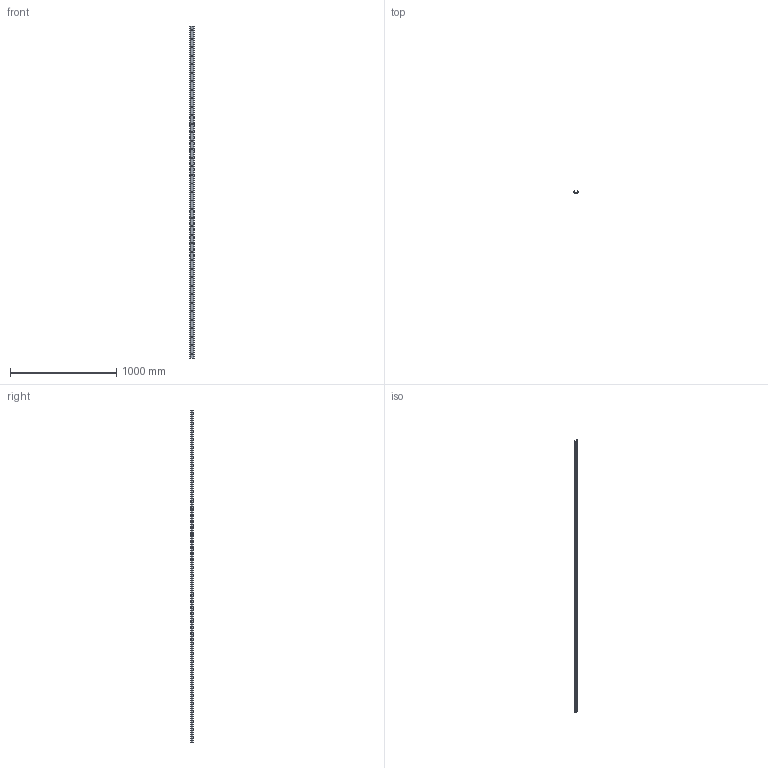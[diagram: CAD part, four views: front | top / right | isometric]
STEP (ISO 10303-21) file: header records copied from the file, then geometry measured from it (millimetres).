
FILE_DESCRIPTION(('STEP AP214'),'1');
FILE_NAME('rail_tex40-3120.stp','2019-03-08T08:33:50',('TraceParts'),('TraceParts S.A.'),'Spatial InterOp 3D',' ',' ');
FILE_SCHEMA(('automotive_design'));
Length unit declared in the file: millimetre
Products named in the file (1): rail_tex40-3120
Bounding box: 39.53 x 21 x 3120 mm (x, y, z)
Volume: 610014.8 mm3; surface area: 429620.7 mm2
Topology: 1 solids, 1 shells, 674 faces, 1746 edges, 1164 vertices
Faces by surface type: plane 474, bspline 110, cylinder 90
Entity records: 42783 total; most frequent: CARTESIAN_POINT 21255, ORIENTED_EDGE 3492, DIRECTION 2836, EDGE_CURVE 1746, LINE 1346, VECTOR 1346, VERTEX_POINT 1164, EDGE_LOOP 842
